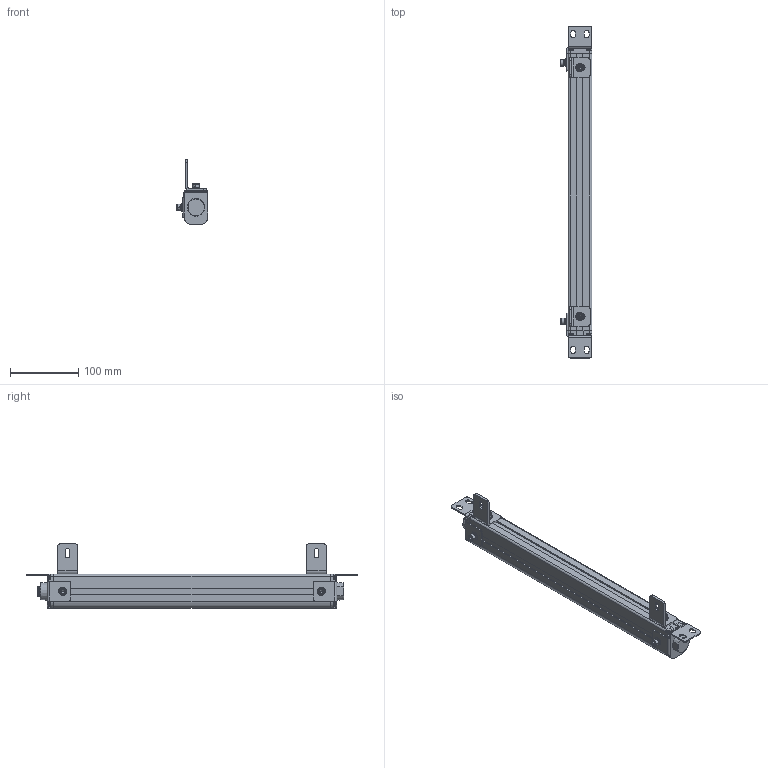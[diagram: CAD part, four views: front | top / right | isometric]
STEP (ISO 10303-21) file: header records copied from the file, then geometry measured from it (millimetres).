
FILE_DESCRIPTION((''),'2;1');
FILE_NAME('ESN--000_ASM','2021-08-11T16:01:19',('18720616900'),(''),'CREO PARAMETRIC BY PTC INC, 2019010','CREO PARAMETRIC BY PTC INC, 2019010','');
FILE_SCHEMA(('CONFIG_CONTROL_DESIGN'));
Length unit declared in the file: millimetre
Products named in the file (22): 00; 000; _0001; 4000; 4--0001; ESN_40001_ASM; L10001; M6-8--0001; M6-1--00; M6-1-00; M6-80001_ASM; L1--0001_ASM; _0002; 0005; ST-3-120001; H1--000; H1--0001_ASM; H1--0003_ASM; ESN--000_ASM
Assembly tree (34 placements, depth 4):
  ESN--000_ASM
    00
    000
    _0001
    000
    ESN_40001_ASM
      4000
      4--0001  x4
    L1--0001_ASM  x2
      L10001
      M6-80001_ASM
        M6-8--0001
        M6-1--00
        M6-1-00
        00
    _0002
    0005
    ST-3-120001  x8
    H1--0001_ASM
      H1--000
      M6-80001_ASM
        M6-8--0001
        M6-1--00
        M6-1-00
        00
    H1--0003_ASM
      H1--000
      M6-80001_ASM
        M6-8--0001
        M6-1--00
        M6-1-00
        00
Bounding box: 46.5 x 487 x 94.95 mm (x, y, z)
Volume: 667558.8 mm3; surface area: 162755.4 mm2
Topology: 39 solids, 39 shells, 1727 faces, 4555 edges, 2925 vertices
Faces by surface type: plane 541, cylinder 404, bspline 362, cone 291, torus 105, sphere 24
Entity records: 45714 total; most frequent: CARTESIAN_POINT 24222, ORIENTED_EDGE 4766, DIRECTION 3842, EDGE_CURVE 2383, VERTEX_POINT 1546, AXIS2_PLACEMENT_3D 1400, VECTOR 1042, LINE 1042
